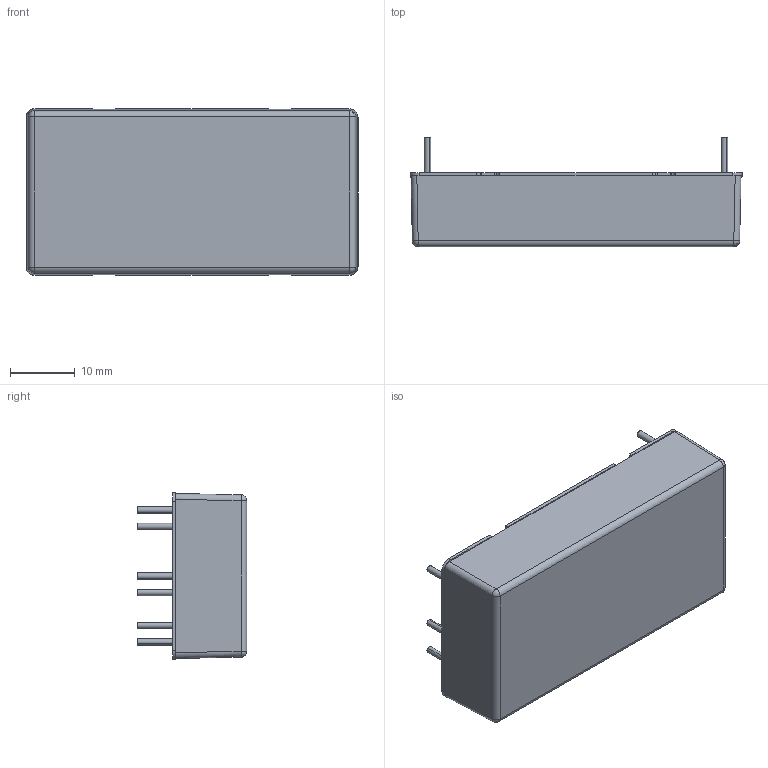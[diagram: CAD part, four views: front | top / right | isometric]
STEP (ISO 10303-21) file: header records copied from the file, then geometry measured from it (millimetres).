
FILE_DESCRIPTION (( 'STEP AP203' ), '1' );
FILE_NAME ('MKWI80S(D) 3D(113.12.20).STEP', '2025-01-09T11:04:52', ( '' ), ( '' ), 'SwSTEP 2.0', 'SolidWorks 2021', '' );
FILE_SCHEMA (( 'CONFIG_CONTROL_DESIGN' ));
Length unit declared in the file: millimetre
Products named in the file (1): MKWI80S(D) 3D(113.12.20)
Bounding box: 51.1 x 16.85 x 25.7 mm (x, y, z)
Volume: 14511.8 mm3; surface area: 4368 mm2
Topology: 1 solids, 1 shells, 104 faces, 247 edges, 158 vertices
Faces by surface type: cylinder 52, plane 47, sphere 4, cone 1
Entity records: 3093 total; most frequent: DIRECTION 554, CARTESIAN_POINT 527, ORIENTED_EDGE 494, EDGE_CURVE 247, AXIS2_PLACEMENT_3D 207, VERTEX_POINT 158, VECTOR 140, LINE 140
